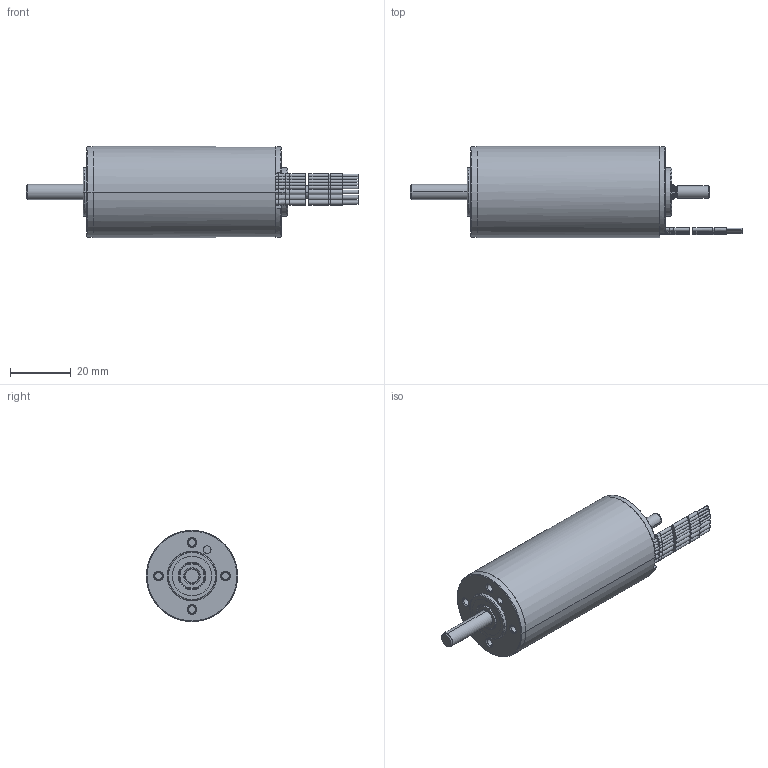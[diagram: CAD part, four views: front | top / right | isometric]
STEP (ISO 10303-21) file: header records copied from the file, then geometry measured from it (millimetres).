
FILE_DESCRIPTION((''),'2;1');
FILE_NAME('305013_EC-4POLE30_200W_HP','2016-10-14T',('mmagpetk'),(''),'CREO PARAMETRIC BY PTC INC, 2016050','CREO PARAMETRIC BY PTC INC, 2016050','');
FILE_SCHEMA(('CONFIG_CONTROL_DESIGN'));
Length unit declared in the file: millimetre
Products named in the file (1): 305013_EC-4POLE30_200W_HP
Bounding box: 109.2 x 30 x 30 mm (x, y, z)
Volume: 46334 mm3; surface area: 9461.4 mm2
Topology: 5 solids, 7 shells, 276 faces, 623 edges, 388 vertices
Faces by surface type: cylinder 133, plane 46, bspline 36, cone 33, torus 28
Entity records: 10962 total; most frequent: CARTESIAN_POINT 2071, DIRECTION 1470, ORIENTED_EDGE 1242, PRESENTATION_STYLE_ASSIGNMENT 700, AXIS2_PLACEMENT_3D 647, STYLED_ITEM 626, CURVE_STYLE 621, EDGE_CURVE 621
